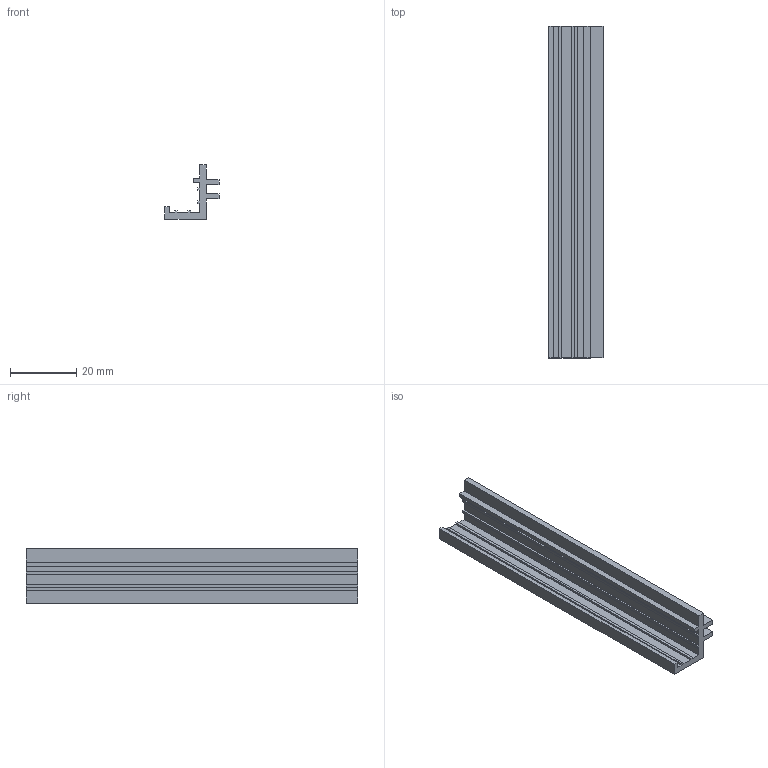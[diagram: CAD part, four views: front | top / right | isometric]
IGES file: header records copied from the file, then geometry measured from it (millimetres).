
Start section: Data from Parasolid IGES Translator 20.0.26, Copyright(c) 2006 Siemens P LM Software. All Rights Reserved.
Global section: file name: 9303920.igs; native system: By Siemens PLM Incorporated; preprocessor: XPlus GENERIC/IGES 20.0.26; author: Noname; organization: Noname; date: 20210826.154335; units: millimetre
Bounding box: 16.3 x 100 x 16.4 mm (x, y, z)
Surface area: 8678.7 mm2 (no closed solid volume)
Topology: 0 solids, 0 shells, 38 faces, 216 edges, 216 vertices
Faces by surface type: extrusion 38
